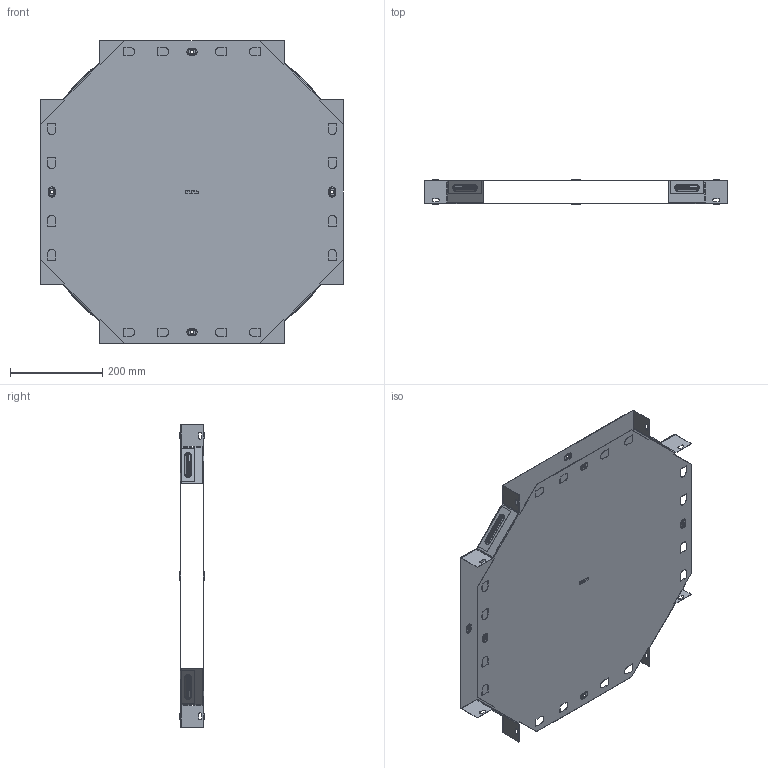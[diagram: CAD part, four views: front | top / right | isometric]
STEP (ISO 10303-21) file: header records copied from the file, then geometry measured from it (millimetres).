
FILE_DESCRIPTION (( 'STEP AP214' ), '1' );
FILE_NAME ('x5040008_捘.STEP', '2019-06-10T07:26:39', ( '砐錪賧瘔蠈錪 Windows' ), ( '' ), 'SwSTEP 2.0', 'SolidWorks 2018', '' );
FILE_SCHEMA (( 'AUTOMOTIVE_DESIGN' ));
Length unit declared in the file: millimetre
Products named in the file (1): x5040008_捘
Bounding box: 655.01 x 53.8 x 655.01 mm (x, y, z)
Volume: 629013.1 mm3; surface area: 1579284.7 mm2
Topology: 2 solids, 2 shells, 880 faces, 2496 edges, 1616 vertices
Faces by surface type: plane 454, cylinder 280, torus 128, bspline 18
Entity records: 29599 total; most frequent: CARTESIAN_POINT 5951, ORIENTED_EDGE 4992, DIRECTION 4938, EDGE_CURVE 2496, LINE 1708, VECTOR 1708, VERTEX_POINT 1616, AXIS2_PLACEMENT_3D 1615
